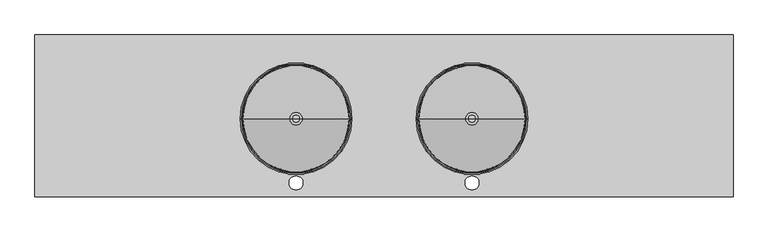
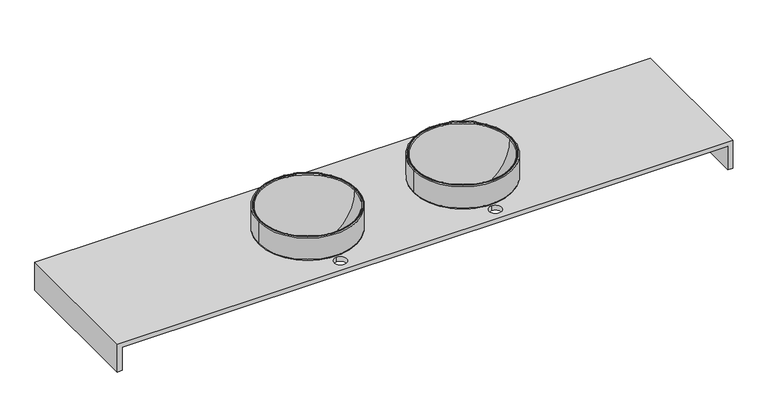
"""IFC4 building model written with IfcOpenShell, lengths in millimetres: flow terminal geometry, CUBIERTA BAÑO : CUBIERTA BAÑO 250CM."""

from ifc_helpers import new_model, si_unit, point, frame, origin, place, context, project, spatial, polyline, circle_curve, ellipse_curve, trimmed, source, transform, mapped, element, save
from ifc_brep_helpers import plane_surface, cylinder_surface, revolved_surface, advanced_brep


def flow_terminal_cd0a1a3c(model_context):
    return source(origin(), model_context, "Body", "AdvancedBrep", [
        advanced_brep(
        [(559.7003264, 280.0, 755.0254698), (554.6748566, 280.0, 750.0), (164.7257963, 280.0, 750.0), (159.7003264, 280.0, 755.0254698), (559.7003264, 280.0, 847.1369003), (159.7003264, 280.0, 847.1369003), (556.5666099, 280.0, 850.2706168), (162.834043, 280.0, 850.2706168), (552.8264261, 280.0, 850.2706168), (166.5742268, 280.0, 850.2706168), (549.9406449, 280.0, 847.3848356), (169.460008, 280.0, 847.3848356), (376.6370457, 280.0, 659.6971154), (342.7636072, 280.0, 659.6971154), (376.6370457, 280.0, 649.6794237), (342.7636072, 280.0, 649.6794237), (549.6748566, 280.0, 781.4886928), (169.7257963, 280.0, 781.4886928), (549.6748566, 280.0, 750.0), (169.7257963, 280.0, 750.0)],
        [
            (0, 1, circle_curve(frame((554.6748566, 280.0, 755.0254698), z_axis=(0.0, 1.0, 0.0), x_axis=(1.0, 0.0, 0.0)), 5.0254698)),
            (1, 2, circle_curve(frame((359.7003264, 280.0, 750.0), z_axis=(0.0, 0.0, 1.0), x_axis=(-1.0, 0.0, 0.0)), 194.9745302)),
            (2, 3, circle_curve(frame((164.7257963, 280.0, 755.0254698), z_axis=(0.0, 1.0, 0.0), x_axis=(-1.0, 0.0, 0.0)), 5.0254698)),
            (3, 0, circle_curve(frame((359.7003264, 280.0, 755.0254698), z_axis=(0.0, 0.0, -1.0), x_axis=(-1.0, 0.0, 0.0)), 200.0)),
            (2, 1, circle_curve(frame((359.7003264, 280.0, 750.0), z_axis=(0.0, 0.0, 1.0), x_axis=(-1.0, 0.0, 0.0)), 194.9745302)),
            (0, 3, circle_curve(frame((359.7003264, 280.0, 755.0254698), z_axis=(0.0, 0.0, -1.0), x_axis=(-1.0, 0.0, 0.0)), 200.0)),
            (4, 0),
            (3, 5),
            (5, 4, circle_curve(frame((359.7003264, 280.0, 847.1369003), z_axis=(0.0, 0.0, -1.0), x_axis=(-1.0, 0.0, 0.0)), 200.0)),
            (4, 5, circle_curve(frame((359.7003264, 280.0, 847.1369003), z_axis=(0.0, 0.0, -1.0), x_axis=(-1.0, 0.0, 0.0)), 200.0)),
            (6, 4, circle_curve(frame((556.5666099, 280.0, 847.1369003), z_axis=(0.0, 1.0, 0.0), x_axis=(1.0, 0.0, 0.0)), 3.1337165)),
            (5, 7, circle_curve(frame((162.834043, 280.0, 847.1369003), z_axis=(0.0, 1.0, 0.0), x_axis=(-1.0, 0.0, 0.0)), 3.1337165)),
            (7, 6, circle_curve(frame((359.7003264, 280.0, 850.2706168), z_axis=(0.0, 0.0, -1.0), x_axis=(-1.0, 0.0, 0.0)), 196.8662835)),
            (6, 7, circle_curve(frame((359.7003264, 280.0, 850.2706168), z_axis=(0.0, 0.0, -1.0), x_axis=(-1.0, 0.0, 0.0)), 196.8662835)),
            (8, 6),
            (7, 9),
            (9, 8, circle_curve(frame((359.7003264, 280.0, 850.2706168), z_axis=(0.0, 0.0, -1.0), x_axis=(-1.0, 0.0, 0.0)), 193.1260997)),
            (8, 9, circle_curve(frame((359.7003264, 280.0, 850.2706168), z_axis=(0.0, 0.0, -1.0), x_axis=(-1.0, 0.0, 0.0)), 193.1260997)),
            (10, 8, circle_curve(frame((552.8264261, 280.0, 847.3848356), z_axis=(0.0, 1.0, 0.0), x_axis=(1.0, 0.0, 0.0)), 2.8857812)),
            (9, 11, circle_curve(frame((166.5742268, 280.0, 847.3848356), z_axis=(0.0, 1.0, 0.0), x_axis=(-1.0, 0.0, 0.0)), 2.8857812)),
            (11, 10, circle_curve(frame((359.7003264, 280.0, 847.3848356), z_axis=(0.0, 0.0, -1.0), x_axis=(-1.0, 0.0, 0.0)), 190.2403184)),
            (10, 11, circle_curve(frame((359.7003264, 280.0, 847.3848356), z_axis=(0.0, 0.0, -1.0), x_axis=(-1.0, 0.0, 0.0)), 190.2403184)),
            (12, 10, circle_curve(frame((365.3724623, 280.0, 843.9531856), z_axis=(0.0, -1.0, 0.0), x_axis=(1.0, 0.0, 0.0)), 184.6000819)),
            (11, 13, circle_curve(frame((354.0281906, 280.0, 843.9531856), z_axis=(0.0, -1.0, 0.0), x_axis=(-1.0, 0.0, 0.0)), 184.6000819)),
            (13, 12, circle_curve(frame((359.7003264, 280.0, 659.6971154), z_axis=(0.0, 0.0, -1.0), x_axis=(-1.0, 0.0, 0.0)), 16.9367193)),
            (12, 13, circle_curve(frame((359.7003264, 280.0, 659.6971154), z_axis=(0.0, 0.0, -1.0), x_axis=(-1.0, 0.0, 0.0)), 16.9367193)),
            (14, 12),
            (13, 15),
            (15, 14, circle_curve(frame((359.7003264, 280.0, 649.6794237), z_axis=(0.0, 0.0, -1.0), x_axis=(-1.0, 0.0, 0.0)), 16.9367193)),
            (14, 15, circle_curve(frame((359.7003264, 280.0, 649.6794237), z_axis=(0.0, 0.0, -1.0), x_axis=(-1.0, 0.0, 0.0)), 16.9367193)),
            (16, 14, circle_curve(frame((365.3724623, 280.0, 843.9531856), z_axis=(0.0, 1.0, 0.0), x_axis=(1.0, 0.0, 0.0)), 194.6000653)),
            (15, 17, circle_curve(frame((354.0281906, 280.0, 843.9531856), z_axis=(0.0, 1.0, 0.0), x_axis=(-1.0, 0.0, 0.0)), 194.6000653)),
            (17, 16, circle_curve(frame((359.7003264, 280.0, 781.4886928), z_axis=(0.0, 0.0, -1.0), x_axis=(-1.0, 0.0, 0.0)), 189.9745302)),
            (16, 17, circle_curve(frame((359.7003264, 280.0, 781.4886928), z_axis=(0.0, 0.0, -1.0), x_axis=(-1.0, 0.0, 0.0)), 189.9745302)),
            (18, 16),
            (17, 19),
            (19, 18, circle_curve(frame((359.7003264, 280.0, 750.0), z_axis=(0.0, 0.0, -1.0), x_axis=(-1.0, 0.0, 0.0)), 189.9745302)),
            (18, 19, circle_curve(frame((359.7003264, 280.0, 750.0), z_axis=(0.0, 0.0, -1.0), x_axis=(-1.0, 0.0, 0.0)), 189.9745302)),
            (1, 18),
            (19, 2),
        ],
        [
            revolved_surface(trimmed(ellipse_curve(frame((164.7257963, 280.0, 755.0254698), z_axis=(0.0, 1.0, 0.0), x_axis=(-1.0, 0.0, 0.0)), 5.0254698, 5.0254698), [point((164.7257963, 280.0, 750.0))], [point((159.7003264, 280.0, 755.0254698))], True, "CARTESIAN"), (359.7003264, 280.0, 700.0), (0.0, 0.0, 1.0)),
            cylinder_surface(frame((359.7003264, 280.0, 700.0), z_axis=(0.0, 0.0, 1.0), x_axis=(-1.0, 0.0, 0.0)), 200.0),
            revolved_surface(trimmed(ellipse_curve(frame((162.834043, 280.0, 847.1369003), z_axis=(0.0, 1.0, 0.0), x_axis=(-1.0, 0.0, 0.0)), 3.1337165, 3.1337165), [point((159.7003264, 280.0, 847.1369003))], [point((162.834043, 280.0, 850.2706168))], True, "CARTESIAN"), (359.7003264, 280.0, 700.0), (0.0, 0.0, 1.0)),
            plane_surface(frame((359.7003264, 280.0, 850.2706168), z_axis=(0.0, 0.0, 1.0), x_axis=(-1.0, 0.0, 0.0))),
            revolved_surface(trimmed(ellipse_curve(frame((166.5742268, 280.0, 847.3848356), z_axis=(0.0, 1.0, 0.0), x_axis=(-1.0, 0.0, 0.0)), 2.8857812, 2.8857812), [point((166.5742268, 280.0, 850.2706168))], [point((169.460008, 280.0, 847.3848356))], True, "CARTESIAN"), (359.7003264, 280.0, 700.0), (0.0, 0.0, 1.0)),
            revolved_surface(trimmed(ellipse_curve(frame((354.0281906, 280.0, 843.9531856), z_axis=(0.0, -1.0, 0.0), x_axis=(-1.0, 0.0, 0.0)), 184.6000819, 184.6000819), [point((169.460008, 280.0, 847.3848356))], [point((342.7636072, 280.0, 659.6971154))], True, "CARTESIAN"), (359.7003264, 280.0, 700.0), (0.0, 0.0, 1.0)),
            revolved_surface(polyline([(342.7636071, 280.0, 659.6971154), (342.7636071, 280.0, 649.6794237)]), (359.7003264, 280.0, 700.0), (0.0, 0.0, 1.0)),
            revolved_surface(trimmed(ellipse_curve(frame((354.0281906, 280.0, 843.9531856), z_axis=(0.0, 1.0, 0.0), x_axis=(-1.0, 0.0, 0.0)), 194.6000653, 194.6000653), [point((342.7636072, 280.0, 649.6794237))], [point((169.7257963, 280.0, 781.4886928))], True, "CARTESIAN"), (359.7003264, 280.0, 700.0), (0.0, 0.0, 1.0)),
            revolved_surface(polyline([(169.7257962, 280.0, 781.4886928), (169.7257962, 280.0, 750.0)]), (359.7003264, 280.0, 700.0), (0.0, 0.0, 1.0)),
            plane_surface(frame((359.7003264, 280.0, 750.0), z_axis=(0.0, 0.0, -1.0), x_axis=(-1.0, 0.0, 0.0))),
        ],
        [
            (0, [[1, 2, 3, 4]]),
            (0, [[-3, 5, -1, 6]]),
            (1, [[7, -4, 8, 9]]),
            (1, [[-8, -6, -7, 10]]),
            (2, [[11, -9, 12, 13]]),
            (2, [[-12, -10, -11, 14]]),
            (3, [[15, -13, 16, 17]]),
            (3, [[-16, -14, -15, 18]]),
            (4, [[19, -17, 20, 21]]),
            (4, [[-20, -18, -19, 22]]),
            (5, [[23, -21, 24, 25]]),
            (5, [[-24, -22, -23, 26]]),
            (6, [[27, -25, 28, 29]]),
            (6, [[-28, -26, -27, 30]]),
            (7, [[31, -29, 32, 33]]),
            (7, [[-32, -30, -31, 34]]),
            (8, [[35, -33, 36, 37]]),
            (8, [[-36, -34, -35, 38]]),
            (9, [[39, -37, 40, -2]]),
            (9, [[-40, -38, -39, -5]]),
        ],
    ),
        advanced_brep(
        [(373.4382327, 280.0, 661.875), (381.7003264, 280.0, 661.875), (337.7003264, 280.0, 661.875), (345.9624201, 280.0, 661.875), (373.4382327, 280.0, 643.7247134), (345.9624201, 280.0, 643.7247134), (359.7003264, 280.0, 643.7247134), (376.7003264, 280.0, 640.0), (359.7003264, 280.0, 640.0), (342.7003264, 280.0, 640.0), (376.7003264, 280.0, 660.339751), (342.7003264, 280.0, 660.339751), (381.7003264, 280.0, 660.339751), (337.7003264, 280.0, 660.339751)],
        [
            (0, 1),
            (1, 2, circle_curve(frame((359.7003264, 280.0, 661.875), z_axis=(0.0, 0.0, 1.0), x_axis=(-1.0, 0.0, 0.0)), 22.0)),
            (2, 3),
            (3, 0, circle_curve(frame((359.7003264, 280.0, 661.875), z_axis=(0.0, 0.0, -1.0), x_axis=(-1.0, 0.0, 0.0)), 13.7379063)),
            (2, 1, circle_curve(frame((359.7003264, 280.0, 661.875), z_axis=(0.0, 0.0, 1.0), x_axis=(-1.0, 0.0, 0.0)), 22.0)),
            (0, 3, circle_curve(frame((359.7003264, 280.0, 661.875), z_axis=(0.0, 0.0, -1.0), x_axis=(-1.0, 0.0, 0.0)), 13.7379063)),
            (4, 0),
            (3, 5),
            (5, 4, circle_curve(frame((359.7003264, 280.0, 643.7247134), z_axis=(0.0, 0.0, -1.0), x_axis=(-1.0, 0.0, 0.0)), 13.7379063)),
            (4, 5, circle_curve(frame((359.7003264, 280.0, 643.7247134), z_axis=(0.0, 0.0, -1.0), x_axis=(-1.0, 0.0, 0.0)), 13.7379063)),
            (6, 4),
            (5, 6),
            (7, 8),
            (8, 9),
            (9, 7, circle_curve(frame((359.7003264, 280.0, 640.0), z_axis=(0.0, 0.0, -1.0), x_axis=(-1.0, 0.0, 0.0)), 17.0)),
            (7, 9, circle_curve(frame((359.7003264, 280.0, 640.0), z_axis=(0.0, 0.0, -1.0), x_axis=(-1.0, 0.0, 0.0)), 17.0)),
            (10, 7),
            (9, 11),
            (11, 10, circle_curve(frame((359.7003264, 280.0, 660.339751), z_axis=(0.0, 0.0, -1.0), x_axis=(-1.0, 0.0, 0.0)), 17.0)),
            (10, 11, circle_curve(frame((359.7003264, 280.0, 660.339751), z_axis=(0.0, 0.0, -1.0), x_axis=(-1.0, 0.0, 0.0)), 17.0)),
            (12, 10),
            (11, 13),
            (13, 12, circle_curve(frame((359.7003264, 280.0, 660.339751), z_axis=(0.0, 0.0, -1.0), x_axis=(-1.0, 0.0, 0.0)), 22.0)),
            (12, 13, circle_curve(frame((359.7003264, 280.0, 660.339751), z_axis=(0.0, 0.0, -1.0), x_axis=(-1.0, 0.0, 0.0)), 22.0)),
            (1, 12),
            (13, 2),
        ],
        [
            plane_surface(frame((359.7003264, 280.0, 661.875), z_axis=(0.0, 0.0, 1.0), x_axis=(-1.0, 0.0, 0.0))),
            revolved_surface(polyline([(345.9624201, 280.0, 661.875), (345.9624201, 280.0, 643.7247134)]), (359.7003264, 280.0, 639.8833255), (0.0, 0.0, 1.0)),
            plane_surface(frame((359.7003264, 280.0, 643.7247134), z_axis=(0.0, 0.0, 1.0), x_axis=(-1.0, 0.0, 0.0))),
            plane_surface(frame((359.7003264, 280.0, 640.0), z_axis=(0.0, 0.0, -1.0), x_axis=(-1.0, 0.0, 0.0))),
            cylinder_surface(frame((359.7003264, 280.0, 639.8833255), z_axis=(0.0, 0.0, 1.0), x_axis=(-1.0, 0.0, 0.0)), 17.0),
            plane_surface(frame((359.7003264, 280.0, 660.339751), z_axis=(0.0, 0.0, -1.0), x_axis=(-1.0, 0.0, 0.0))),
            cylinder_surface(frame((359.7003264, 280.0, 639.8833255), z_axis=(0.0, 0.0, 1.0), x_axis=(-1.0, 0.0, 0.0)), 22.0),
        ],
        [
            (0, [[1, 2, 3, 4]]),
            (0, [[-3, 5, -1, 6]]),
            (1, [[7, -4, 8, 9]]),
            (1, [[-8, -6, -7, 10]]),
            (2, [[11, -9, 12]]),
            (2, [[-12, -10, -11]]),
            (3, [[13, 14, 15]]),
            (3, [[-14, -13, 16]]),
            (4, [[17, -15, 18, 19]]),
            (4, [[-18, -16, -17, 20]]),
            (5, [[21, -19, 22, 23]]),
            (5, [[-22, -20, -21, 24]]),
            (6, [[25, -23, 26, -2]]),
            (6, [[-26, -24, -25, -5]]),
        ],
    ),
        advanced_brep(
        [(-70.2996736, 280.0, 755.0254698), (-75.3251434, 280.0, 750.0), (-465.2742037, 280.0, 750.0), (-470.2996736, 280.0, 755.0254698), (-70.2996736, 280.0, 847.1369003), (-470.2996736, 280.0, 847.1369003), (-73.4333901, 280.0, 850.2706168), (-467.165957, 280.0, 850.2706168), (-77.1735739, 280.0, 850.2706168), (-463.4257732, 280.0, 850.2706168), (-80.0593551, 280.0, 847.3848356), (-460.539992, 280.0, 847.3848356), (-253.3629543, 280.0, 659.6971154), (-287.2363928, 280.0, 659.6971154), (-253.3629543, 280.0, 649.6794237), (-287.2363928, 280.0, 649.6794237), (-80.3251434, 280.0, 781.4886928), (-460.2742037, 280.0, 781.4886928), (-80.3251434, 280.0, 750.0), (-460.2742037, 280.0, 750.0)],
        [
            (0, 1, circle_curve(frame((-75.3251434, 280.0, 755.0254698), z_axis=(0.0, 1.0, 0.0), x_axis=(1.0, 0.0, 0.0)), 5.0254698)),
            (1, 2, circle_curve(frame((-270.2996736, 280.0, 750.0), z_axis=(0.0, 0.0, 1.0), x_axis=(-1.0, 0.0, 0.0)), 194.9745302)),
            (2, 3, circle_curve(frame((-465.2742037, 280.0, 755.0254698), z_axis=(0.0, 1.0, 0.0), x_axis=(-1.0, 0.0, 0.0)), 5.0254698)),
            (3, 0, circle_curve(frame((-270.2996736, 280.0, 755.0254698), z_axis=(0.0, 0.0, -1.0), x_axis=(-1.0, 0.0, 0.0)), 200.0)),
            (2, 1, circle_curve(frame((-270.2996736, 280.0, 750.0), z_axis=(0.0, 0.0, 1.0), x_axis=(-1.0, 0.0, 0.0)), 194.9745302)),
            (0, 3, circle_curve(frame((-270.2996736, 280.0, 755.0254698), z_axis=(0.0, 0.0, -1.0), x_axis=(-1.0, 0.0, 0.0)), 200.0)),
            (4, 0),
            (3, 5),
            (5, 4, circle_curve(frame((-270.2996736, 280.0, 847.1369003), z_axis=(0.0, 0.0, -1.0), x_axis=(-1.0, 0.0, 0.0)), 200.0)),
            (4, 5, circle_curve(frame((-270.2996736, 280.0, 847.1369003), z_axis=(0.0, 0.0, -1.0), x_axis=(-1.0, 0.0, 0.0)), 200.0)),
            (6, 4, circle_curve(frame((-73.4333901, 280.0, 847.1369003), z_axis=(0.0, 1.0, 0.0), x_axis=(1.0, 0.0, 0.0)), 3.1337165)),
            (5, 7, circle_curve(frame((-467.165957, 280.0, 847.1369003), z_axis=(0.0, 1.0, 0.0), x_axis=(-1.0, 0.0, 0.0)), 3.1337165)),
            (7, 6, circle_curve(frame((-270.2996736, 280.0, 850.2706168), z_axis=(0.0, 0.0, -1.0), x_axis=(-1.0, 0.0, 0.0)), 196.8662835)),
            (6, 7, circle_curve(frame((-270.2996736, 280.0, 850.2706168), z_axis=(0.0, 0.0, -1.0), x_axis=(-1.0, 0.0, 0.0)), 196.8662835)),
            (8, 6),
            (7, 9),
            (9, 8, circle_curve(frame((-270.2996736, 280.0, 850.2706168), z_axis=(0.0, 0.0, -1.0), x_axis=(-1.0, 0.0, 0.0)), 193.1260997)),
            (8, 9, circle_curve(frame((-270.2996736, 280.0, 850.2706168), z_axis=(0.0, 0.0, -1.0), x_axis=(-1.0, 0.0, 0.0)), 193.1260997)),
            (10, 8, circle_curve(frame((-77.1735739, 280.0, 847.3848356), z_axis=(0.0, 1.0, 0.0), x_axis=(1.0, 0.0, 0.0)), 2.8857812)),
            (9, 11, circle_curve(frame((-463.4257732, 280.0, 847.3848356), z_axis=(0.0, 1.0, 0.0), x_axis=(-1.0, 0.0, 0.0)), 2.8857812)),
            (11, 10, circle_curve(frame((-270.2996736, 280.0, 847.3848356), z_axis=(0.0, 0.0, -1.0), x_axis=(-1.0, 0.0, 0.0)), 190.2403184)),
            (10, 11, circle_curve(frame((-270.2996736, 280.0, 847.3848356), z_axis=(0.0, 0.0, -1.0), x_axis=(-1.0, 0.0, 0.0)), 190.2403184)),
            (12, 10, circle_curve(frame((-264.6275377, 280.0, 843.9531856), z_axis=(0.0, -1.0, 0.0), x_axis=(1.0, 0.0, 0.0)), 184.6000819)),
            (11, 13, circle_curve(frame((-275.9718094, 280.0, 843.9531856), z_axis=(0.0, -1.0, 0.0), x_axis=(-1.0, 0.0, 0.0)), 184.6000819)),
            (13, 12, circle_curve(frame((-270.2996736, 280.0, 659.6971154), z_axis=(0.0, 0.0, -1.0), x_axis=(-1.0, 0.0, 0.0)), 16.9367193)),
            (12, 13, circle_curve(frame((-270.2996736, 280.0, 659.6971154), z_axis=(0.0, 0.0, -1.0), x_axis=(-1.0, 0.0, 0.0)), 16.9367193)),
            (14, 12),
            (13, 15),
            (15, 14, circle_curve(frame((-270.2996736, 280.0, 649.6794237), z_axis=(0.0, 0.0, -1.0), x_axis=(-1.0, 0.0, 0.0)), 16.9367193)),
            (14, 15, circle_curve(frame((-270.2996736, 280.0, 649.6794237), z_axis=(0.0, 0.0, -1.0), x_axis=(-1.0, 0.0, 0.0)), 16.9367193)),
            (16, 14, circle_curve(frame((-264.6275377, 280.0, 843.9531856), z_axis=(0.0, 1.0, 0.0), x_axis=(1.0, 0.0, 0.0)), 194.6000653)),
            (15, 17, circle_curve(frame((-275.9718094, 280.0, 843.9531856), z_axis=(0.0, 1.0, 0.0), x_axis=(-1.0, 0.0, 0.0)), 194.6000653)),
            (17, 16, circle_curve(frame((-270.2996736, 280.0, 781.4886928), z_axis=(0.0, 0.0, -1.0), x_axis=(-1.0, 0.0, 0.0)), 189.9745302)),
            (16, 17, circle_curve(frame((-270.2996736, 280.0, 781.4886928), z_axis=(0.0, 0.0, -1.0), x_axis=(-1.0, 0.0, 0.0)), 189.9745302)),
            (18, 16),
            (17, 19),
            (19, 18, circle_curve(frame((-270.2996736, 280.0, 750.0), z_axis=(0.0, 0.0, -1.0), x_axis=(-1.0, 0.0, 0.0)), 189.9745302)),
            (18, 19, circle_curve(frame((-270.2996736, 280.0, 750.0), z_axis=(0.0, 0.0, -1.0), x_axis=(-1.0, 0.0, 0.0)), 189.9745302)),
            (1, 18),
            (19, 2),
        ],
        [
            revolved_surface(trimmed(ellipse_curve(frame((-465.2742037, 280.0, 755.0254698), z_axis=(0.0, 1.0, 0.0), x_axis=(-1.0, 0.0, 0.0)), 5.0254698, 5.0254698), [point((-465.2742037, 280.0, 750.0))], [point((-470.2996736, 280.0, 755.0254698))], True, "CARTESIAN"), (-270.2996736, 280.0, 700.0), (0.0, 0.0, 1.0)),
            cylinder_surface(frame((-270.2996736, 280.0, 700.0), z_axis=(0.0, 0.0, 1.0), x_axis=(-1.0, 0.0, 0.0)), 200.0),
            revolved_surface(trimmed(ellipse_curve(frame((-467.165957, 280.0, 847.1369003), z_axis=(0.0, 1.0, 0.0), x_axis=(-1.0, 0.0, 0.0)), 3.1337165, 3.1337165), [point((-470.2996736, 280.0, 847.1369003))], [point((-467.165957, 280.0, 850.2706168))], True, "CARTESIAN"), (-270.2996736, 280.0, 700.0), (0.0, 0.0, 1.0)),
            plane_surface(frame((-270.2996736, 280.0, 850.2706168), z_axis=(0.0, 0.0, 1.0), x_axis=(-1.0, 0.0, 0.0))),
            revolved_surface(trimmed(ellipse_curve(frame((-463.4257732, 280.0, 847.3848356), z_axis=(0.0, 1.0, 0.0), x_axis=(-1.0, 0.0, 0.0)), 2.8857812, 2.8857812), [point((-463.4257732, 280.0, 850.2706168))], [point((-460.539992, 280.0, 847.3848356))], True, "CARTESIAN"), (-270.2996736, 280.0, 700.0), (0.0, 0.0, 1.0)),
            revolved_surface(trimmed(ellipse_curve(frame((-275.9718094, 280.0, 843.9531856), z_axis=(0.0, -1.0, 0.0), x_axis=(-1.0, 0.0, 0.0)), 184.6000819, 184.6000819), [point((-460.539992, 280.0, 847.3848356))], [point((-287.2363928, 280.0, 659.6971154))], True, "CARTESIAN"), (-270.2996736, 280.0, 700.0), (0.0, 0.0, 1.0)),
            revolved_surface(polyline([(-287.2363929, 280.0, 659.6971154), (-287.2363929, 280.0, 649.6794237)]), (-270.2996736, 280.0, 700.0), (0.0, 0.0, 1.0)),
            revolved_surface(trimmed(ellipse_curve(frame((-275.9718094, 280.0, 843.9531856), z_axis=(0.0, 1.0, 0.0), x_axis=(-1.0, 0.0, 0.0)), 194.6000653, 194.6000653), [point((-287.2363928, 280.0, 649.6794237))], [point((-460.2742037, 280.0, 781.4886928))], True, "CARTESIAN"), (-270.2996736, 280.0, 700.0), (0.0, 0.0, 1.0)),
            revolved_surface(polyline([(-460.2742038, 280.0, 781.4886928), (-460.2742038, 280.0, 750.0)]), (-270.2996736, 280.0, 700.0), (0.0, 0.0, 1.0)),
            plane_surface(frame((-270.2996736, 280.0, 750.0), z_axis=(0.0, 0.0, -1.0), x_axis=(-1.0, 0.0, 0.0))),
        ],
        [
            (0, [[1, 2, 3, 4]]),
            (0, [[-3, 5, -1, 6]]),
            (1, [[7, -4, 8, 9]]),
            (1, [[-8, -6, -7, 10]]),
            (2, [[11, -9, 12, 13]]),
            (2, [[-12, -10, -11, 14]]),
            (3, [[15, -13, 16, 17]]),
            (3, [[-16, -14, -15, 18]]),
            (4, [[19, -17, 20, 21]]),
            (4, [[-20, -18, -19, 22]]),
            (5, [[23, -21, 24, 25]]),
            (5, [[-24, -22, -23, 26]]),
            (6, [[27, -25, 28, 29]]),
            (6, [[-28, -26, -27, 30]]),
            (7, [[31, -29, 32, 33]]),
            (7, [[-32, -30, -31, 34]]),
            (8, [[35, -33, 36, 37]]),
            (8, [[-36, -34, -35, 38]]),
            (9, [[39, -37, 40, -2]]),
            (9, [[-40, -38, -39, -5]]),
        ],
    ),
        advanced_brep(
        [(-256.5617673, 280.0, 661.875), (-248.2996736, 280.0, 661.875), (-292.2996736, 280.0, 661.875), (-284.0375799, 280.0, 661.875), (-256.5617673, 280.0, 643.7247134), (-284.0375799, 280.0, 643.7247134), (-270.2996736, 280.0, 643.7247134), (-253.2996736, 280.0, 640.0), (-270.2996736, 280.0, 640.0), (-287.2996736, 280.0, 640.0), (-253.2996736, 280.0, 660.339751), (-287.2996736, 280.0, 660.339751), (-248.2996736, 280.0, 660.339751), (-292.2996736, 280.0, 660.339751)],
        [
            (0, 1),
            (1, 2, circle_curve(frame((-270.2996736, 280.0, 661.875), z_axis=(0.0, 0.0, 1.0), x_axis=(-1.0, 0.0, 0.0)), 22.0)),
            (2, 3),
            (3, 0, circle_curve(frame((-270.2996736, 280.0, 661.875), z_axis=(0.0, 0.0, -1.0), x_axis=(-1.0, 0.0, 0.0)), 13.7379063)),
            (2, 1, circle_curve(frame((-270.2996736, 280.0, 661.875), z_axis=(0.0, 0.0, 1.0), x_axis=(-1.0, 0.0, 0.0)), 22.0)),
            (0, 3, circle_curve(frame((-270.2996736, 280.0, 661.875), z_axis=(0.0, 0.0, -1.0), x_axis=(-1.0, 0.0, 0.0)), 13.7379063)),
            (4, 0),
            (3, 5),
            (5, 4, circle_curve(frame((-270.2996736, 280.0, 643.7247134), z_axis=(0.0, 0.0, -1.0), x_axis=(-1.0, 0.0, 0.0)), 13.7379063)),
            (4, 5, circle_curve(frame((-270.2996736, 280.0, 643.7247134), z_axis=(0.0, 0.0, -1.0), x_axis=(-1.0, 0.0, 0.0)), 13.7379063)),
            (6, 4),
            (5, 6),
            (7, 8),
            (8, 9),
            (9, 7, circle_curve(frame((-270.2996736, 280.0, 640.0), z_axis=(0.0, 0.0, -1.0), x_axis=(-1.0, 0.0, 0.0)), 17.0)),
            (7, 9, circle_curve(frame((-270.2996736, 280.0, 640.0), z_axis=(0.0, 0.0, -1.0), x_axis=(-1.0, 0.0, 0.0)), 17.0)),
            (10, 7),
            (9, 11),
            (11, 10, circle_curve(frame((-270.2996736, 280.0, 660.339751), z_axis=(0.0, 0.0, -1.0), x_axis=(-1.0, 0.0, 0.0)), 17.0)),
            (10, 11, circle_curve(frame((-270.2996736, 280.0, 660.339751), z_axis=(0.0, 0.0, -1.0), x_axis=(-1.0, 0.0, 0.0)), 17.0)),
            (12, 10),
            (11, 13),
            (13, 12, circle_curve(frame((-270.2996736, 280.0, 660.339751), z_axis=(0.0, 0.0, -1.0), x_axis=(-1.0, 0.0, 0.0)), 22.0)),
            (12, 13, circle_curve(frame((-270.2996736, 280.0, 660.339751), z_axis=(0.0, 0.0, -1.0), x_axis=(-1.0, 0.0, 0.0)), 22.0)),
            (1, 12),
            (13, 2),
        ],
        [
            plane_surface(frame((-270.2996736, 280.0, 661.875), z_axis=(0.0, 0.0, 1.0), x_axis=(-1.0, 0.0, 0.0))),
            revolved_surface(polyline([(-284.0375799, 280.0, 661.875), (-284.0375799, 280.0, 643.7247134)]), (-270.2996736, 280.0, 639.8833255), (0.0, 0.0, 1.0)),
            plane_surface(frame((-270.2996736, 280.0, 643.7247134), z_axis=(0.0, 0.0, 1.0), x_axis=(-1.0, 0.0, 0.0))),
            plane_surface(frame((-270.2996736, 280.0, 640.0), z_axis=(0.0, 0.0, -1.0), x_axis=(-1.0, 0.0, 0.0))),
            cylinder_surface(frame((-270.2996736, 280.0, 639.8833255), z_axis=(0.0, 0.0, 1.0), x_axis=(-1.0, 0.0, 0.0)), 17.0),
            plane_surface(frame((-270.2996736, 280.0, 660.339751), z_axis=(0.0, 0.0, -1.0), x_axis=(-1.0, 0.0, 0.0))),
            cylinder_surface(frame((-270.2996736, 280.0, 639.8833255), z_axis=(0.0, 0.0, 1.0), x_axis=(-1.0, 0.0, 0.0)), 22.0),
        ],
        [
            (0, [[1, 2, 3, 4]]),
            (0, [[-3, 5, -1, 6]]),
            (1, [[7, -4, 8, 9]]),
            (1, [[-8, -6, -7, 10]]),
            (2, [[11, -9, 12]]),
            (2, [[-12, -10, -11]]),
            (3, [[13, 14, 15]]),
            (3, [[-14, -13, 16]]),
            (4, [[17, -15, 18, 19]]),
            (4, [[-18, -16, -17, 20]]),
            (5, [[21, -19, 22, 23]]),
            (5, [[-22, -20, -21, 24]]),
            (6, [[25, -23, 26, -2]]),
            (6, [[-26, -24, -25, -5]]),
        ],
    ),
        advanced_brep(
        [(-1185.2996736, 0.0, 730.2844037), (-1185.2996736, 560.0, 730.2844037), (1274.7003264, 560.0, 730.2844037), (1274.7003264, 0.0, 730.2844037), (-270.2996736, 25.0, 730.2844037), (-270.2996736, 75.0, 730.2844037), (-270.2996736, 100.0, 730.2844037), (-270.2996736, 460.0, 730.2844037), (359.7003264, 25.0, 730.2844037), (359.7003264, 75.0, 730.2844037), (359.7003264, 100.0, 730.2844037), (359.7003264, 460.0, 730.2844037), (1294.7003264, 0.0, 750.0), (1294.7003264, 580.0, 750.0), (-1205.2996736, 580.0, 750.0), (-1205.2996736, 0.0, 750.0), (-270.2996736, 25.0, 750.0), (-270.2996736, 75.0, 750.0), (-270.2996736, 100.0, 750.0), (-270.2996736, 460.0, 750.0), (359.7003264, 25.0, 750.0), (359.7003264, 75.0, 750.0), (359.7003264, 100.0, 750.0), (359.7003264, 460.0, 750.0), (-1205.2996736, 0.0, 630.0), (-1185.2996736, 0.0, 630.0), (1274.7003264, 0.0, 630.0), (1294.7003264, 0.0, 630.0), (-1205.2996736, 580.0, 630.0), (1294.7003264, 580.0, 630.0), (1274.7003264, 560.0, 630.0), (-1185.2996736, 560.0, 630.0)],
        [
            (0, 1),
            (1, 2),
            (2, 3),
            (3, 0),
            (4, 5, circle_curve(frame((-270.2996736, 50.0, 730.2844037), z_axis=(0.0, 0.0, 1.0), x_axis=(0.0, 1.0, 0.0)), 25.0)),
            (5, 4, circle_curve(frame((-270.2996736, 50.0, 730.2844037), z_axis=(0.0, 0.0, 1.0), x_axis=(0.0, 1.0, 0.0)), 25.0)),
            (6, 7, circle_curve(frame((-270.2996736, 280.0, 730.2844037), z_axis=(0.0, 0.0, 1.0), x_axis=(0.0, 1.0, 0.0)), 180.0)),
            (7, 6, circle_curve(frame((-270.2996736, 280.0, 730.2844037), z_axis=(0.0, 0.0, 1.0), x_axis=(0.0, 1.0, 0.0)), 180.0)),
            (8, 9, circle_curve(frame((359.7003264, 50.0, 730.2844037), z_axis=(0.0, 0.0, 1.0), x_axis=(0.0, 1.0, 0.0)), 25.0)),
            (9, 8, circle_curve(frame((359.7003264, 50.0, 730.2844037), z_axis=(0.0, 0.0, 1.0), x_axis=(0.0, 1.0, 0.0)), 25.0)),
            (10, 11, circle_curve(frame((359.7003264, 280.0, 730.2844037), z_axis=(0.0, 0.0, 1.0), x_axis=(0.0, 1.0, 0.0)), 180.0)),
            (11, 10, circle_curve(frame((359.7003264, 280.0, 730.2844037), z_axis=(0.0, 0.0, 1.0), x_axis=(0.0, 1.0, 0.0)), 180.0)),
            (12, 13),
            (13, 14),
            (14, 15),
            (15, 12),
            (16, 17, circle_curve(frame((-270.2996736, 50.0, 750.0), z_axis=(0.0, 0.0, -1.0), x_axis=(0.0, 1.0, 0.0)), 25.0)),
            (17, 16, circle_curve(frame((-270.2996736, 50.0, 750.0), z_axis=(0.0, 0.0, -1.0), x_axis=(0.0, 1.0, 0.0)), 25.0)),
            (18, 19, circle_curve(frame((-270.2996736, 280.0, 750.0), z_axis=(0.0, 0.0, -1.0), x_axis=(0.0, 1.0, 0.0)), 180.0)),
            (19, 18, circle_curve(frame((-270.2996736, 280.0, 750.0), z_axis=(0.0, 0.0, -1.0), x_axis=(0.0, 1.0, 0.0)), 180.0)),
            (20, 21, circle_curve(frame((359.7003264, 50.0, 750.0), z_axis=(0.0, 0.0, -1.0), x_axis=(0.0, 1.0, 0.0)), 25.0)),
            (21, 20, circle_curve(frame((359.7003264, 50.0, 750.0), z_axis=(0.0, 0.0, -1.0), x_axis=(0.0, 1.0, 0.0)), 25.0)),
            (22, 23, circle_curve(frame((359.7003264, 280.0, 750.0), z_axis=(0.0, 0.0, -1.0), x_axis=(0.0, 1.0, 0.0)), 180.0)),
            (23, 22, circle_curve(frame((359.7003264, 280.0, 750.0), z_axis=(0.0, 0.0, -1.0), x_axis=(0.0, 1.0, 0.0)), 180.0)),
            (15, 24),
            (24, 25),
            (25, 0),
            (3, 26),
            (26, 27),
            (27, 12),
            (14, 28),
            (28, 24),
            (13, 29),
            (29, 28),
            (27, 29),
            (4, 16),
            (17, 5),
            (6, 18),
            (19, 7),
            (8, 20),
            (21, 9),
            (10, 22),
            (23, 11),
            (26, 30),
            (30, 31),
            (31, 25),
            (2, 30),
            (1, 31),
        ],
        [
            plane_surface(frame((-1205.2996736, 0.0, 730.2844037), z_axis=(0.0, 0.0, -1.0), x_axis=(1.0, 0.0, 0.0))),
            plane_surface(frame((-1205.2996736, 0.0, 750.0), z_axis=(0.0, 0.0, 1.0), x_axis=(-1.0, 0.0, 0.0))),
            plane_surface(frame((1294.7003264, 0.0, 750.0), z_axis=(0.0, -1.0, 0.0), x_axis=(0.0, 0.0, -1.0))),
            plane_surface(frame((-1205.2996736, 0.0, 750.0), z_axis=(-1.0, 0.0, 0.0), x_axis=(0.0, 0.0, -1.0))),
            plane_surface(frame((-1205.2996736, 580.0, 750.0), z_axis=(0.0, 1.0, 0.0), x_axis=(0.0, 0.0, -1.0))),
            plane_surface(frame((1294.7003264, 580.0, 750.0), z_axis=(1.0, 0.0, 0.0), x_axis=(0.0, 0.0, -1.0))),
            revolved_surface(polyline([(-270.2996736, 75.0, 730.2844037), (-270.2996736, 75.0, 750.0)]), (-270.2996736, 50.0, 750.0), (0.0, 0.0, -1.0)),
            revolved_surface(polyline([(-270.2996736, 460.0, 730.2844037), (-270.2996736, 460.0, 750.0)]), (-270.2996736, 280.0, 750.0), (0.0, 0.0, -1.0)),
            revolved_surface(polyline([(359.7003264, 75.0, 730.2844037), (359.7003264, 75.0, 750.0)]), (359.7003264, 50.0, 750.0), (0.0, 0.0, -1.0)),
            revolved_surface(polyline([(359.7003264, 460.0, 730.2844037), (359.7003264, 460.0, 750.0)]), (359.7003264, 280.0, 750.0), (0.0, 0.0, -1.0)),
            plane_surface(frame((-1205.2996736, 580.0, 630.0), z_axis=(0.0, 0.0, -1.0), x_axis=(-1.0, 0.0, 0.0))),
            plane_surface(frame((1274.7003264, 0.0, 730.2844037), z_axis=(-1.0, 0.0, 0.0), x_axis=(0.0, 0.0, -1.0))),
            plane_surface(frame((1274.7003264, 560.0, 730.2844037), z_axis=(0.0, -1.0, 0.0), x_axis=(0.0, 0.0, -1.0))),
            plane_surface(frame((-1185.2996736, 560.0, 730.2844037), z_axis=(1.0, 0.0, 0.0), x_axis=(0.0, 0.0, -1.0))),
        ],
        [
            (0, [[1, 2, 3, 4], [5, 6], [7, 8], [9, 10], [11, 12]]),
            (1, [[13, 14, 15, 16], [17, 18], [19, 20], [21, 22], [23, 24]]),
            (2, [[25, 26, 27, -4, 28, 29, 30, -16]]),
            (3, [[31, 32, -25, -15]]),
            (4, [[33, 34, -31, -14]]),
            (5, [[35, -33, -13, -30]]),
            (6, [[36, -18, 37, -5]]),
            (6, [[-37, -17, -36, -6]]),
            (7, [[38, -20, 39, -7]]),
            (7, [[-39, -19, -38, -8]]),
            (8, [[40, -22, 41, -9]]),
            (8, [[-41, -21, -40, -10]]),
            (9, [[42, -24, 43, -11]]),
            (9, [[-43, -23, -42, -12]]),
            (10, [[-34, -35, -29, 44, 45, 46, -26, -32]]),
            (11, [[-28, -3, 47, -44]]),
            (12, [[-47, -2, 48, -45]]),
            (13, [[-48, -1, -27, -46]]),
        ],
    ),
    ])


if __name__ == "__main__":
    model = new_model("IFC4")
    model_context = context("Model", 3, world=origin())
    ifc_project = project(units=[si_unit("LENGTHUNIT", "METRE", prefix="MILLI")], contexts=[model_context])
    site = spatial("IfcSite", under=ifc_project)
    building = spatial("IfcBuilding", under=site)
    placement = place(None, origin())
    flow_terminal_shape = flow_terminal_cd0a1a3c(model_context)
    element("IfcFlowTerminal", 1, ObjectType="CUBIERTA BAÑO : CUBIERTA BAÑO 250CM", at=placement, inside=building, context=model_context, shape_type="MappedRepresentation", body=[
        mapped(flow_terminal_shape, transform((0.0, 0.0, 0.0), x_axis=(1.0, 0.0, 0.0), y_axis=(0.0, 1.0, 0.0), z_axis=(0.0, 0.0, 1.0))),
    ])
    save(model, "model.ifc")
